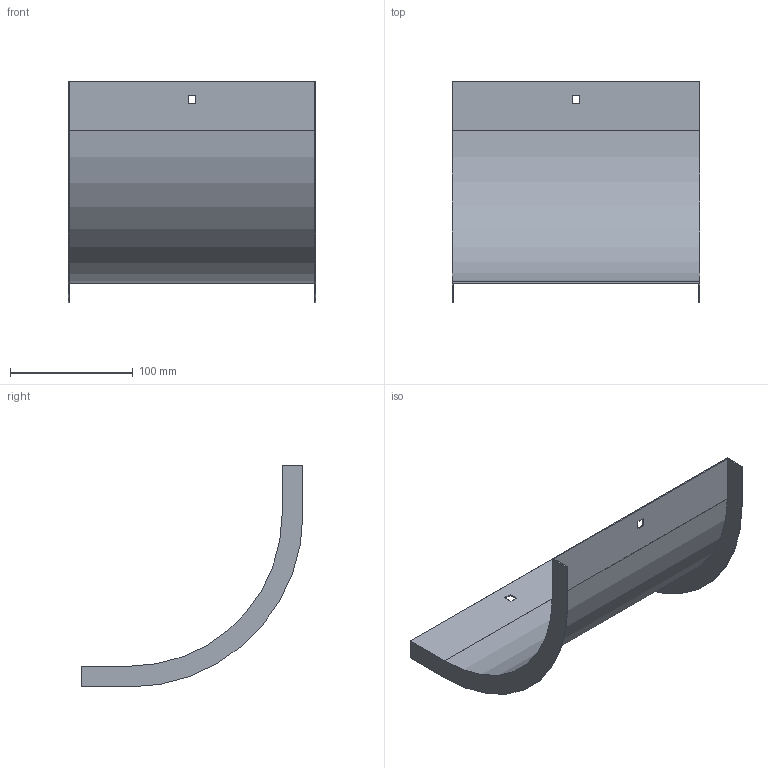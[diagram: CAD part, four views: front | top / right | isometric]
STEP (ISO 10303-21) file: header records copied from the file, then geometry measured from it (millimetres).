
FILE_DESCRIPTION (( 'STEP AP214' ), '1' );
FILE_NAME ('OS9_200.step', '2025-07-16T09:17:22', ( '' ), ( '' ), 'SwSTEP 2.0', 'SolidWorks 2023', '' );
FILE_SCHEMA (( 'AUTOMOTIVE_DESIGN' ));
Length unit declared in the file: millimetre
Products named in the file (1): OS9_200
Bounding box: 202 x 181 x 181 mm (x, y, z)
Volume: 64825.3 mm3; surface area: 130771.9 mm2
Topology: 1 solids, 1 shells, 26 faces, 72 edges, 48 vertices
Faces by surface type: plane 22, cylinder 4
Entity records: 855 total; most frequent: CARTESIAN_POINT 147, ORIENTED_EDGE 144, DIRECTION 134, EDGE_CURVE 72, LINE 64, VECTOR 64, VERTEX_POINT 48, AXIS2_PLACEMENT_3D 35
